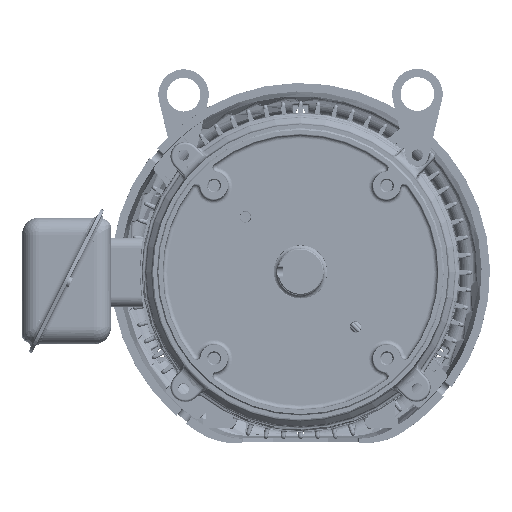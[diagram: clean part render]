
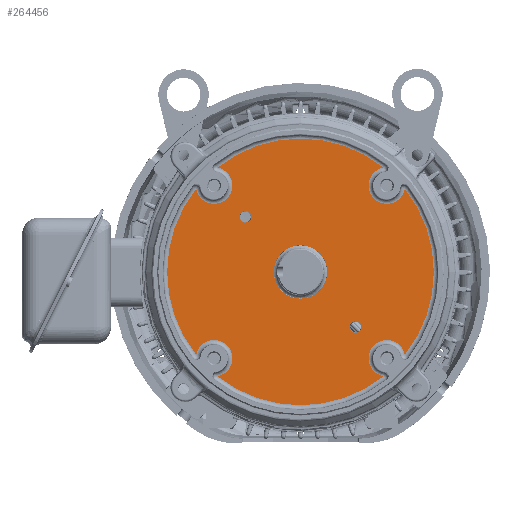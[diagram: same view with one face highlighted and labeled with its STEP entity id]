
A CAD part, top view. The second image highlights one B-rep face of the part: STEP entity #264456.
In plain terms, the highlighted planar face has unit normal (0, 0, 1) as drawn and (0, 0, -1) by its records, which use the part's own axes.
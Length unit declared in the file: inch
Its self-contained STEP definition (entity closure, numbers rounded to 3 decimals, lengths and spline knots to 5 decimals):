
#247607=CARTESIAN_POINT('',(-1.63518,-1.63518,-1.391));
#247608=DIRECTION('',(0.,0.,1.));
#247609=DIRECTION('',(-1.,0.,0.));
#247610=AXIS2_PLACEMENT_3D('',#247607,#247608,#247609);
#247612=CARTESIAN_POINT('',(-1.63518,-1.63518,-1.391));
#247613=DIRECTION('',(0.,0.,1.));
#247614=DIRECTION('',(1.,0.,0.));
#247615=AXIS2_PLACEMENT_3D('',#247612,#247613,#247614);
#247617=CARTESIAN_POINT('',(1.63518,1.63518,-1.391));
#247618=DIRECTION('',(0.,0.,1.));
#247619=DIRECTION('',(-1.,0.,0.));
#247620=AXIS2_PLACEMENT_3D('',#247617,#247618,#247619);
#247622=CARTESIAN_POINT('',(1.63518,1.63518,-1.391));
#247623=DIRECTION('',(0.,0.,1.));
#247624=DIRECTION('',(1.,0.,0.));
#247625=AXIS2_PLACEMENT_3D('',#247622,#247623,#247624);
#247627=CARTESIAN_POINT('',(0.,0.,-1.391));
#247628=DIRECTION('',(0.,0.,1.));
#247629=DIRECTION('',(-1.,0.,0.));
#247630=AXIS2_PLACEMENT_3D('',#247627,#247628,#247629);
#247632=CARTESIAN_POINT('',(0.,0.,-1.391));
#247633=DIRECTION('',(0.,0.,1.));
#247634=DIRECTION('',(1.,0.,0.));
#247635=AXIS2_PLACEMENT_3D('',#247632,#247633,#247634);
#247647=CARTESIAN_POINT('',(0.,0.,-1.391));
#247648=DIRECTION('',(0.,0.,-1.));
#247649=DIRECTION('',(-0.782,-0.623,0.));
#247650=AXIS2_PLACEMENT_3D('',#247647,#247648,#247649);
#252315=CARTESIAN_POINT('',(0.,0.,-1.391));
#252316=DIRECTION('',(0.,0.,-1.));
#252317=DIRECTION('',(-0.623,0.782,0.));
#252318=AXIS2_PLACEMENT_3D('',#252315,#252316,#252317);
#252395=CARTESIAN_POINT('',(-2.56326,2.56326,-1.391));
#252396=DIRECTION('',(0.,0.,1.));
#252397=DIRECTION('',(-0.983,-0.182,0.));
#252398=AXIS2_PLACEMENT_3D('',#252395,#252396,#252397);
#252415=CARTESIAN_POINT('',(2.56326,2.56326,-1.391));
#252416=DIRECTION('',(0.,0.,1.));
#252417=DIRECTION('',(-0.182,0.983,0.));
#252418=AXIS2_PLACEMENT_3D('',#252415,#252416,#252417);
#252465=CARTESIAN_POINT('',(0.,0.,-1.391));
#252466=DIRECTION('',(0.,0.,-1.));
#252467=DIRECTION('',(0.782,0.623,0.));
#252468=AXIS2_PLACEMENT_3D('',#252465,#252466,#252467);
#252515=CARTESIAN_POINT('',(2.56326,-2.56326,-1.391));
#252516=DIRECTION('',(0.,0.,1.));
#252517=DIRECTION('',(0.983,0.182,0.));
#252518=AXIS2_PLACEMENT_3D('',#252515,#252516,#252517);
#252565=CARTESIAN_POINT('',(0.,0.,-1.391));
#252566=DIRECTION('',(0.,0.,-1.));
#252567=DIRECTION('',(0.623,-0.782,0.));
#252568=AXIS2_PLACEMENT_3D('',#252565,#252566,#252567);
#252615=CARTESIAN_POINT('',(-2.56326,-2.56326,-1.391));
#252616=DIRECTION('',(0.,0.,1.));
#252617=DIRECTION('',(0.182,-0.983,0.));
#252618=AXIS2_PLACEMENT_3D('',#252615,#252616,#252617);
#257721=CARTESIAN_POINT('',(-3.09683,-2.46469,-1.391));
#257722=CARTESIAN_POINT('',(-3.09683,2.46469,-1.391));
#257723=VERTEX_POINT('',#257721);
#257724=VERTEX_POINT('',#257722);
#257729=CARTESIAN_POINT('',(-2.46469,-3.09683,-1.391));
#257730=VERTEX_POINT('',#257729);
#257735=CARTESIAN_POINT('',(2.46469,-3.09683,-1.391));
#257736=VERTEX_POINT('',#257735);
#257741=CARTESIAN_POINT('',(3.09683,-2.46469,-1.391));
#257742=VERTEX_POINT('',#257741);
#257747=CARTESIAN_POINT('',(3.09683,2.46469,-1.391));
#257748=VERTEX_POINT('',#257747);
#257753=CARTESIAN_POINT('',(2.46469,3.09683,-1.391));
#257754=VERTEX_POINT('',#257753);
#257759=CARTESIAN_POINT('',(-2.46469,3.09683,-1.391));
#257760=VERTEX_POINT('',#257759);
#257814=CARTESIAN_POINT('',(-1.80668,-1.63518,-1.391));
#257815=CARTESIAN_POINT('',(-1.46368,-1.63518,-1.391));
#257816=VERTEX_POINT('',#257814);
#257817=VERTEX_POINT('',#257815);
#257822=CARTESIAN_POINT('',(1.46368,1.63518,-1.391));
#257823=CARTESIAN_POINT('',(1.80668,1.63518,-1.391));
#257824=VERTEX_POINT('',#257822);
#257825=VERTEX_POINT('',#257823);
#257858=CARTESIAN_POINT('',(-0.7925,0.,-1.391));
#257859=CARTESIAN_POINT('',(0.7925,0.,-1.391));
#257860=VERTEX_POINT('',#257858);
#257861=VERTEX_POINT('',#257859);
#264416=CARTESIAN_POINT('',(0.,0.,-1.391));
#264417=DIRECTION('',(0.,0.,-1.));
#264418=DIRECTION('',(1.,0.,0.));
#264419=AXIS2_PLACEMENT_3D('',#264416,#264417,#264418);
#264420=PLANE('',#264419);
#264422=ORIENTED_EDGE('',*,*,#264421,.F.);
#264424=ORIENTED_EDGE('',*,*,#264423,.F.);
#264426=ORIENTED_EDGE('',*,*,#264425,.F.);
#264428=ORIENTED_EDGE('',*,*,#264427,.F.);
#264430=ORIENTED_EDGE('',*,*,#264429,.F.);
#264432=ORIENTED_EDGE('',*,*,#264431,.F.);
#264434=ORIENTED_EDGE('',*,*,#264433,.F.);
#264436=ORIENTED_EDGE('',*,*,#264435,.F.);
#264437=EDGE_LOOP('',(#264422,#264424,#264426,#264428,#264430,#264432,#264434,
#264436));
#264438=FACE_OUTER_BOUND('',#264437,.F.);
#264440=ORIENTED_EDGE('',*,*,#264439,.F.);
#264442=ORIENTED_EDGE('',*,*,#264441,.F.);
#264443=EDGE_LOOP('',(#264440,#264442));
#264444=FACE_BOUND('',#264443,.F.);
#264445=ORIENTED_EDGE('',*,*,#264406,.F.);
#264447=ORIENTED_EDGE('',*,*,#264446,.F.);
#264448=EDGE_LOOP('',(#264445,#264447));
#264449=FACE_BOUND('',#264448,.F.);
#264451=ORIENTED_EDGE('',*,*,#264450,.F.);
#264453=ORIENTED_EDGE('',*,*,#264452,.F.);
#264454=EDGE_LOOP('',(#264451,#264453));
#264455=FACE_BOUND('',#264454,.F.);
#264456=ADVANCED_FACE('',(#264438,#264444,#264449,#264455),#264420,.T.);
#247611=CIRCLE('',#247610,0.1715);
#247616=CIRCLE('',#247615,0.1715);
#247621=CIRCLE('',#247620,0.1715);
#247626=CIRCLE('',#247625,0.1715);
#247631=CIRCLE('',#247630,0.7925);
#247636=CIRCLE('',#247635,0.7925);
#247651=CIRCLE('',#247650,3.95791);
#252319=CIRCLE('',#252318,3.95791);
#252399=CIRCLE('',#252398,0.54259);
#252419=CIRCLE('',#252418,0.54259);
#252469=CIRCLE('',#252468,3.95791);
#252519=CIRCLE('',#252518,0.54259);
#252569=CIRCLE('',#252568,3.95791);
#252619=CIRCLE('',#252618,0.54259);
#264406=EDGE_CURVE('',#257824,#257825,#247621,.T.);
#264421=EDGE_CURVE('',#257723,#257724,#247651,.T.);
#264423=EDGE_CURVE('',#257730,#257723,#252619,.T.);
#264425=EDGE_CURVE('',#257736,#257730,#252569,.T.);
#264427=EDGE_CURVE('',#257742,#257736,#252519,.T.);
#264429=EDGE_CURVE('',#257748,#257742,#252469,.T.);
#264431=EDGE_CURVE('',#257754,#257748,#252419,.T.);
#264433=EDGE_CURVE('',#257760,#257754,#252319,.T.);
#264435=EDGE_CURVE('',#257724,#257760,#252399,.T.);
#264439=EDGE_CURVE('',#257816,#257817,#247611,.T.);
#264441=EDGE_CURVE('',#257817,#257816,#247616,.T.);
#264446=EDGE_CURVE('',#257825,#257824,#247626,.T.);
#264450=EDGE_CURVE('',#257860,#257861,#247631,.T.);
#264452=EDGE_CURVE('',#257861,#257860,#247636,.T.);
